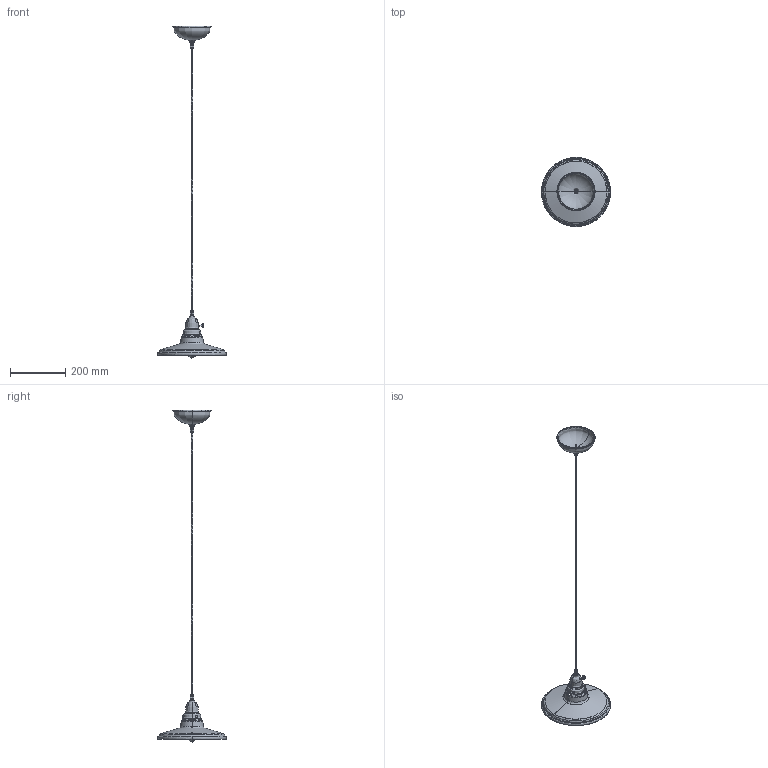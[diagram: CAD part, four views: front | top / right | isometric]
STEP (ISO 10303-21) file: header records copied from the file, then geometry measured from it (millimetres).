
FILE_DESCRIPTION(/* description */ (''),/* implementation_level */ '2;1');
FILE_NAME(/* name */ 'KINOSH~1',/* time_stamp */ '2022-02-10T14:26:05+09:00',/* author */ (''),/* organization */ (''),/* preprocessor_version */ 'ST-DEVELOPER v15',/* originating_system */ '',/* authorisation */ '');
FILE_SCHEMA (('AUTOMOTIVE_DESIGN'));
Length unit declared in the file: millimetre
Products named in the file (1): Document
Bounding box: 249.96 x 250 x 1201.9 mm (x, y, z)
Volume: 261272.3 mm3; surface area: 266798.1 mm2
Topology: 13 solids, 13 shells, 1401 faces, 3475 edges, 2083 vertices
Faces by surface type: plane 715, bspline 686
Entity records: 82945 total; most frequent: CARTESIAN_POINT 60652, ORIENTED_EDGE 6934, EDGE_CURVE 3467, B_SPLINE_CURVE_WITH_KNOTS 2926, VERTEX_POINT 2083, EDGE_LOOP 1426, ADVANCED_FACE 1401, FACE_OUTER_BOUND 1401
